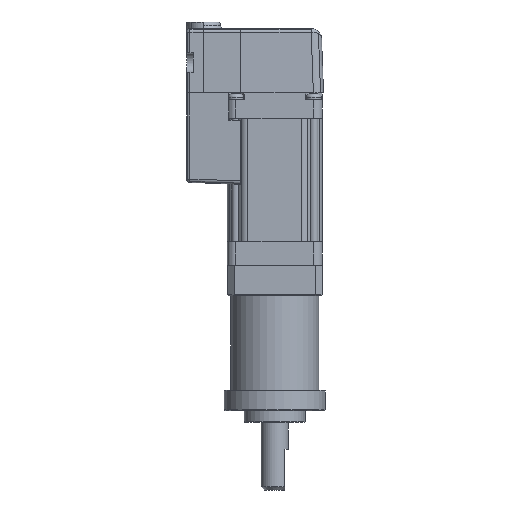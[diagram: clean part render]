
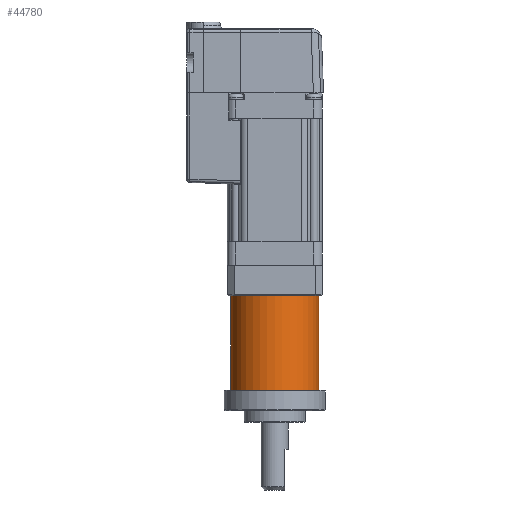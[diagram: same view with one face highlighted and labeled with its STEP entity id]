
A CAD part, front view. The second image highlights one B-rep face of the part: STEP entity #44780.
In plain terms, the highlighted cylindrical face has radius 13 mm (diameter 26 mm), a partial arc.
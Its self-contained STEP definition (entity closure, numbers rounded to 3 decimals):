
#44780 = ADVANCED_FACE('',(#44781),#44795,.T.);
#44781 = FACE_BOUND('',#44782,.T.);
#44782 = EDGE_LOOP('',(#44783,#44818,#44847,#44870));
#44783 = ORIENTED_EDGE('',*,*,#44784,.F.);
#44784 = EDGE_CURVE('',#44785,#44787,#44789,.T.);
#44785 = VERTEX_POINT('',#44786);
#44786 = CARTESIAN_POINT('',(94.124,156.917,10.75));
#44787 = VERTEX_POINT('',#44788);
#44788 = CARTESIAN_POINT('',(122.124,156.917,10.75));
#44789 = SURFACE_CURVE('',#44790,(#44794,#44806),.PCURVE_S1.);
#44790 = LINE('',#44791,#44792);
#44791 = CARTESIAN_POINT('',(94.124,156.917,10.75));
#44792 = VECTOR('',#44793,1.);
#44793 = DIRECTION('',(1.,0.,0.));
#44794 = PCURVE('',#44795,#44800);
#44795 = CYLINDRICAL_SURFACE('',#44796,13.);
#44796 = AXIS2_PLACEMENT_3D('',#44797,#44798,#44799);
#44797 = CARTESIAN_POINT('',(94.124,156.917,-2.25));
#44798 = DIRECTION('',(-1.,0.,0.));
#44799 = DIRECTION('',(0.,0.,1.));
#44800 = DEFINITIONAL_REPRESENTATION('',(#44801),#44805);
#44801 = LINE('',#44802,#44803);
#44802 = CARTESIAN_POINT('',(6.283,0.));
#44803 = VECTOR('',#44804,1.);
#44804 = DIRECTION('',(0.,-1.));
#44805 = ( GEOMETRIC_REPRESENTATION_CONTEXT(2) 
PARAMETRIC_REPRESENTATION_CONTEXT() REPRESENTATION_CONTEXT('2D SPACE',''
  ) );
#44806 = PCURVE('',#44807,#44812);
#44807 = CYLINDRICAL_SURFACE('',#44808,13.);
#44808 = AXIS2_PLACEMENT_3D('',#44809,#44810,#44811);
#44809 = CARTESIAN_POINT('',(94.124,156.917,-2.25));
#44810 = DIRECTION('',(-1.,0.,0.));
#44811 = DIRECTION('',(0.,0.,1.));
#44812 = DEFINITIONAL_REPRESENTATION('',(#44813),#44817);
#44813 = LINE('',#44814,#44815);
#44814 = CARTESIAN_POINT('',(0.,0.));
#44815 = VECTOR('',#44816,1.);
#44816 = DIRECTION('',(0.,-1.));
#44817 = ( GEOMETRIC_REPRESENTATION_CONTEXT(2) 
PARAMETRIC_REPRESENTATION_CONTEXT() REPRESENTATION_CONTEXT('2D SPACE',''
  ) );
#44818 = ORIENTED_EDGE('',*,*,#44819,.T.);
#44819 = EDGE_CURVE('',#44785,#44820,#44822,.T.);
#44820 = VERTEX_POINT('',#44821);
#44821 = CARTESIAN_POINT('',(94.124,156.917,-15.25));
#44822 = SURFACE_CURVE('',#44823,(#44828,#44835),.PCURVE_S1.);
#44823 = CIRCLE('',#44824,13.);
#44824 = AXIS2_PLACEMENT_3D('',#44825,#44826,#44827);
#44825 = CARTESIAN_POINT('',(94.124,156.917,-2.25));
#44826 = DIRECTION('',(1.,0.,0.));
#44827 = DIRECTION('',(0.,0.,1.));
#44828 = PCURVE('',#44795,#44829);
#44829 = DEFINITIONAL_REPRESENTATION('',(#44830),#44834);
#44830 = LINE('',#44831,#44832);
#44831 = CARTESIAN_POINT('',(6.283,0.));
#44832 = VECTOR('',#44833,1.);
#44833 = DIRECTION('',(-1.,0.));
#44834 = ( GEOMETRIC_REPRESENTATION_CONTEXT(2) 
PARAMETRIC_REPRESENTATION_CONTEXT() REPRESENTATION_CONTEXT('2D SPACE',''
  ) );
#44835 = PCURVE('',#44836,#44841);
#44836 = PLANE('',#44837);
#44837 = AXIS2_PLACEMENT_3D('',#44838,#44839,#44840);
#44838 = CARTESIAN_POINT('',(94.124,156.917,-2.25));
#44839 = DIRECTION('',(1.,0.,0.));
#44840 = DIRECTION('',(0.,0.,1.));
#44841 = DEFINITIONAL_REPRESENTATION('',(#44842),#44846);
#44842 = CIRCLE('',#44843,13.);
#44843 = AXIS2_PLACEMENT_2D('',#44844,#44845);
#44844 = CARTESIAN_POINT('',(0.,0.));
#44845 = DIRECTION('',(1.,0.));
#44846 = ( GEOMETRIC_REPRESENTATION_CONTEXT(2) 
PARAMETRIC_REPRESENTATION_CONTEXT() REPRESENTATION_CONTEXT('2D SPACE',''
  ) );
#44847 = ORIENTED_EDGE('',*,*,#44848,.F.);
#44848 = EDGE_CURVE('',#44849,#44820,#44851,.T.);
#44849 = VERTEX_POINT('',#44850);
#44850 = CARTESIAN_POINT('',(122.124,156.917,-15.25));
#44851 = SURFACE_CURVE('',#44852,(#44856,#44863),.PCURVE_S1.);
#44852 = LINE('',#44853,#44854);
#44853 = CARTESIAN_POINT('',(94.124,156.917,-15.25));
#44854 = VECTOR('',#44855,1.);
#44855 = DIRECTION('',(-1.,0.,0.));
#44856 = PCURVE('',#44795,#44857);
#44857 = DEFINITIONAL_REPRESENTATION('',(#44858),#44862);
#44858 = LINE('',#44859,#44860);
#44859 = CARTESIAN_POINT('',(3.142,0.));
#44860 = VECTOR('',#44861,1.);
#44861 = DIRECTION('',(0.,1.));
#44862 = ( GEOMETRIC_REPRESENTATION_CONTEXT(2) 
PARAMETRIC_REPRESENTATION_CONTEXT() REPRESENTATION_CONTEXT('2D SPACE',''
  ) );
#44863 = PCURVE('',#44807,#44864);
#44864 = DEFINITIONAL_REPRESENTATION('',(#44865),#44869);
#44865 = LINE('',#44866,#44867);
#44866 = CARTESIAN_POINT('',(3.142,0.));
#44867 = VECTOR('',#44868,1.);
#44868 = DIRECTION('',(0.,1.));
#44869 = ( GEOMETRIC_REPRESENTATION_CONTEXT(2) 
PARAMETRIC_REPRESENTATION_CONTEXT() REPRESENTATION_CONTEXT('2D SPACE',''
  ) );
#44870 = ORIENTED_EDGE('',*,*,#44871,.T.);
#44871 = EDGE_CURVE('',#44849,#44787,#44872,.T.);
#44872 = SURFACE_CURVE('',#44873,(#44878,#44885),.PCURVE_S1.);
#44873 = CIRCLE('',#44874,13.);
#44874 = AXIS2_PLACEMENT_3D('',#44875,#44876,#44877);
#44875 = CARTESIAN_POINT('',(122.124,156.917,-2.25));
#44876 = DIRECTION('',(-1.,0.,0.));
#44877 = DIRECTION('',(0.,0.,1.));
#44878 = PCURVE('',#44795,#44879);
#44879 = DEFINITIONAL_REPRESENTATION('',(#44880),#44884);
#44880 = LINE('',#44881,#44882);
#44881 = CARTESIAN_POINT('',(0.,-28.));
#44882 = VECTOR('',#44883,1.);
#44883 = DIRECTION('',(1.,0.));
#44884 = ( GEOMETRIC_REPRESENTATION_CONTEXT(2) 
PARAMETRIC_REPRESENTATION_CONTEXT() REPRESENTATION_CONTEXT('2D SPACE',''
  ) );
#44885 = PCURVE('',#44886,#44891);
#44886 = PLANE('',#44887);
#44887 = AXIS2_PLACEMENT_3D('',#44888,#44889,#44890);
#44888 = CARTESIAN_POINT('',(122.124,156.917,-2.25));
#44889 = DIRECTION('',(1.,0.,0.));
#44890 = DIRECTION('',(0.,0.,1.));
#44891 = DEFINITIONAL_REPRESENTATION('',(#44892),#44900);
#44892 = ( BOUNDED_CURVE() B_SPLINE_CURVE(2,(#44893,#44894,#44895,#44896
    ,#44897,#44898,#44899),.UNSPECIFIED.,.T.,.F.) 
B_SPLINE_CURVE_WITH_KNOTS((1,2,2,2,2,1),(-2.094,0.,
    2.094,4.189,6.283,8.378),
.UNSPECIFIED.) CURVE() GEOMETRIC_REPRESENTATION_ITEM() 
RATIONAL_B_SPLINE_CURVE((1.,0.5,1.,0.5,1.,0.5,1.)) REPRESENTATION_ITEM(
  '') );
#44893 = CARTESIAN_POINT('',(13.,0.));
#44894 = CARTESIAN_POINT('',(13.,-22.517));
#44895 = CARTESIAN_POINT('',(-6.5,-11.258));
#44896 = CARTESIAN_POINT('',(-26.,0.));
#44897 = CARTESIAN_POINT('',(-6.5,11.258));
#44898 = CARTESIAN_POINT('',(13.,22.517));
#44899 = CARTESIAN_POINT('',(13.,0.));
#44900 = ( GEOMETRIC_REPRESENTATION_CONTEXT(2) 
PARAMETRIC_REPRESENTATION_CONTEXT() REPRESENTATION_CONTEXT('2D SPACE',''
  ) );
